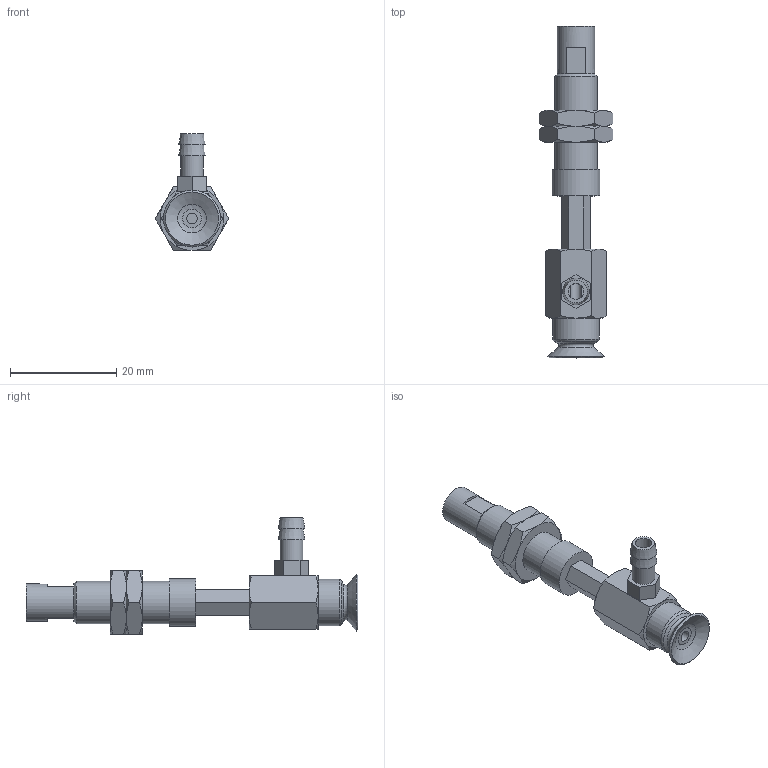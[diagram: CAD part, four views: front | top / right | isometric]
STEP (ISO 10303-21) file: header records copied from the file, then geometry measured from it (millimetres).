
FILE_DESCRIPTION(('STEP AP203'),'1');
FILE_NAME('-T.stp','2025-04-10T07:24:04',(' '),(' '),'Spatial InterOp 3D',' ',' ');
FILE_SCHEMA(('CONFIG_CONTROL_DESIGN'));
Length unit declared in the file: millimetre
Products named in the file (7): BNABPFYH-10A-10-※-T; CONNECTOR-H-10A-10; Nut-10A-10-h; NAPFTH-10A-10-FBODY; NAPFTH-10A-10-MBODY; BPFG-10A-※; T
Assembly tree (7 placements, depth 2):
  BNABPFYH-10A-10-※-T
    CONNECTOR-H-10A-10
    Nut-10A-10-h  x2
    NAPFTH-10A-10-FBODY
    NAPFTH-10A-10-MBODY
    BPFG-10A-※
    T
Bounding box: 13.86 x 62.5 x 22 mm (x, y, z)
Volume: 3669.6 mm3; surface area: 4655.6 mm2
Topology: 7 solids, 7 shells, 157 faces, 335 edges, 206 vertices
Faces by surface type: plane 76, cone 54, cylinder 18, torus 8, bspline 1
Full cylindrical faces by diameter (mm): 2 x2, 3 x1, 4 x2, 4.134 x2, 4.3 x1, 5 x2, 6 x2, 7 x1, 7.188 x2, 8 x1, 8.7 x1, 9 x1
Entity records: 3949 total; most frequent: CARTESIAN_POINT 925, DIRECTION 556, ORIENTED_EDGE 476, EDGE_CURVE 238, AXIS2_PLACEMENT_3D 231, EDGE_LOOP 200, VERTEX_POINT 170, FACE_OUTER_BOUND 160
